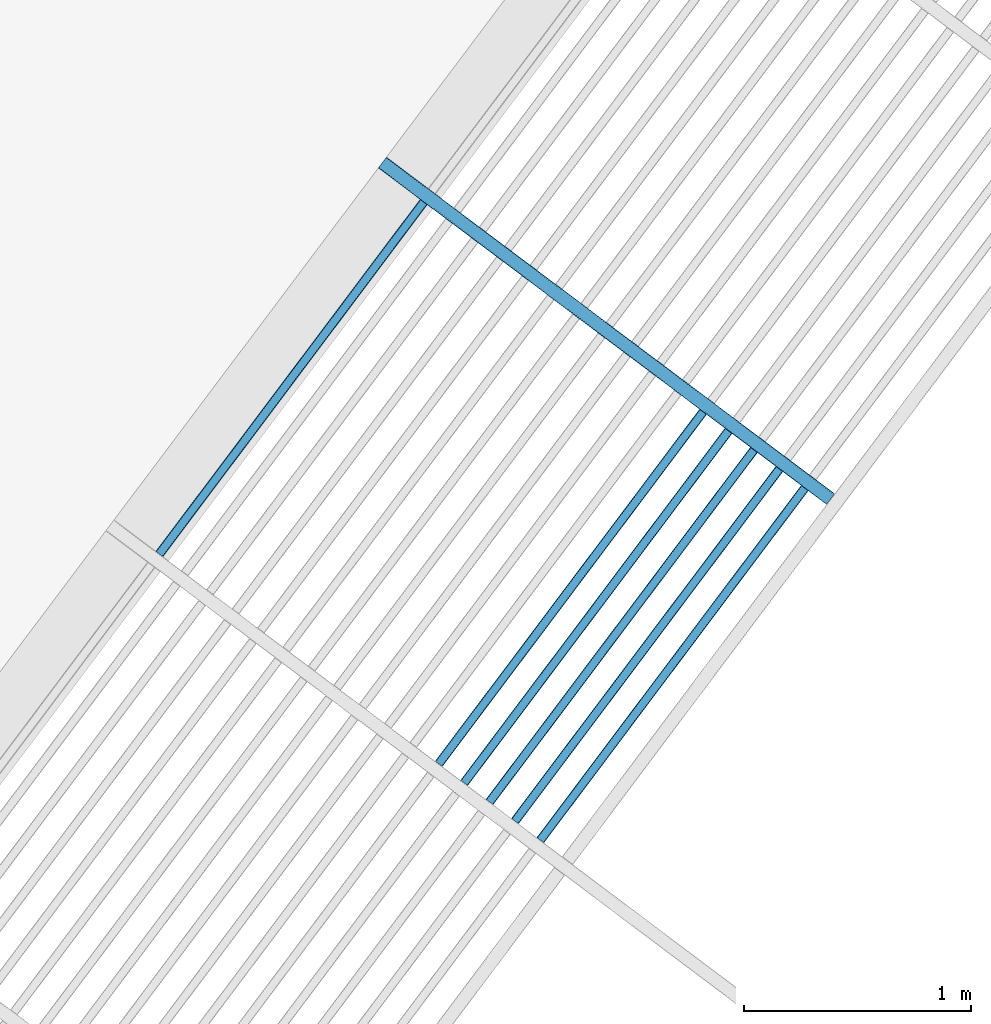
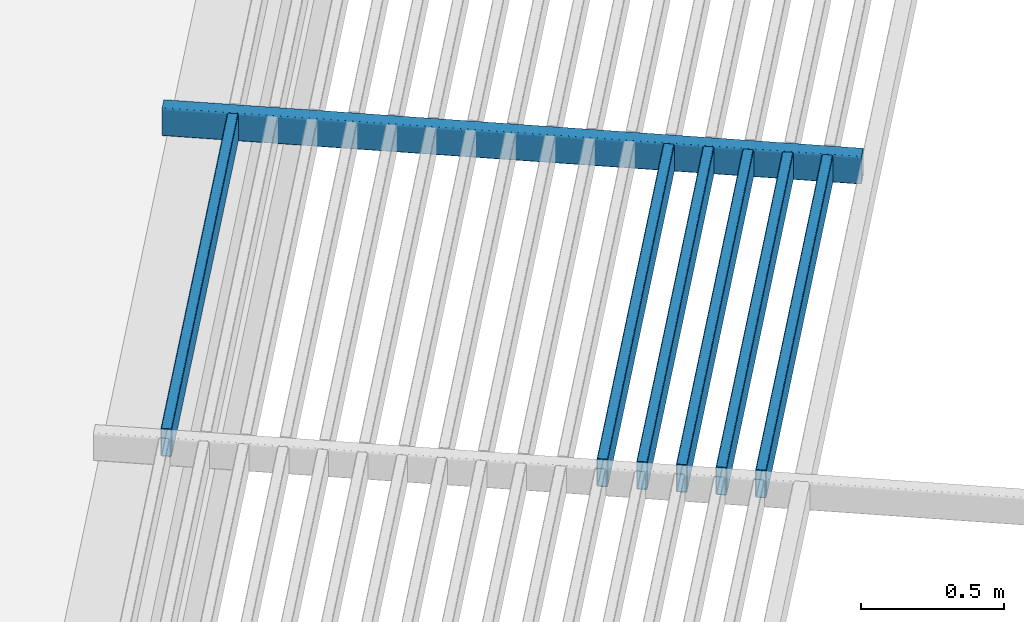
# One storey, part 29 of 95: 7 beams.
"""IFC2X3 building model written with IfcOpenShell, lengths in metres."""

from ifc_helpers import new_model, entity, si_unit, converted_unit, derived_unit, direction, frame, frame_2d, origin, place, context, subcontext, project, spatial, polyline, circle_curve, parameter, trimmed, segment, composite_curve, outline, extrude, material, type_object, element, save


model = new_model("IFC2X3")

# Units and contexts
model_context = context("Model", 3, precision=1e-05, world=origin(), true_north=direction((6.123031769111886e-17, 1.0)))
body_context = subcontext(model_context, "Body", "Model", "MODEL_VIEW")
ifc_project = project(units=[si_unit("LENGTHUNIT", "METRE"), si_unit("AREAUNIT", "SQUARE_METRE"), si_unit("VOLUMEUNIT", "CUBIC_METRE"), converted_unit("PLANEANGLEUNIT", "DEGREE", entity("IfcRatioMeasure", 0.017453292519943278), si_unit("PLANEANGLEUNIT", "RADIAN"), dimensions=[0, 0, 0, 0, 0, 0, 0]), si_unit("MASSUNIT", "GRAM", prefix="KILO"), derived_unit("MASSDENSITYUNIT", [(si_unit("MASSUNIT", "GRAM", prefix="KILO"), 1), (si_unit("LENGTHUNIT", "METRE"), -3)]), derived_unit("IONCONCENTRATIONUNIT", [(si_unit("MASSUNIT", "GRAM", prefix="KILO"), 1), (si_unit("LENGTHUNIT", "METRE"), -3)]), derived_unit("MOMENTOFINERTIAUNIT", [(si_unit("LENGTHUNIT", "METRE"), 4)]), si_unit("TIMEUNIT", "SECOND"), si_unit("FREQUENCYUNIT", "HERTZ"), si_unit("THERMODYNAMICTEMPERATUREUNIT", "DEGREE_CELSIUS"), derived_unit("THERMALTRANSMITTANCEUNIT", [(si_unit("MASSUNIT", "GRAM", prefix="KILO"), 1), (si_unit("THERMODYNAMICTEMPERATUREUNIT", "KELVIN"), -1), (si_unit("TIMEUNIT", "SECOND"), -3)]), derived_unit("THERMALCONDUCTANCEUNIT", [(si_unit("MASSUNIT", "GRAM", prefix="KILO"), 1), (si_unit("THERMODYNAMICTEMPERATUREUNIT", "KELVIN"), -1), (si_unit("TIMEUNIT", "SECOND"), -3), (si_unit("LENGTHUNIT", "METRE"), 1)]), derived_unit("VOLUMETRICFLOWRATEUNIT", [(si_unit("LENGTHUNIT", "METRE"), 3), (si_unit("TIMEUNIT", "SECOND"), -1)]), derived_unit("MASSFLOWRATEUNIT", [(si_unit("MASSUNIT", "GRAM", prefix="KILO"), 1), (si_unit("TIMEUNIT", "SECOND"), -1)]), derived_unit("ROTATIONALFREQUENCYUNIT", [(si_unit("TIMEUNIT", "SECOND"), -1)]), si_unit("ELECTRICCURRENTUNIT", "AMPERE"), si_unit("ELECTRICVOLTAGEUNIT", "VOLT"), si_unit("POWERUNIT", "WATT"), si_unit("FORCEUNIT", "NEWTON", prefix="KILO"), si_unit("ILLUMINANCEUNIT", "LUX"), si_unit("LUMINOUSFLUXUNIT", "LUMEN"), si_unit("LUMINOUSINTENSITYUNIT", "CANDELA"), derived_unit("USERDEFINED", [(si_unit("MASSUNIT", "GRAM", prefix="KILO"), -1), (si_unit("LENGTHUNIT", "METRE"), -2), (si_unit("TIMEUNIT", "SECOND"), 3), (si_unit("LUMINOUSFLUXUNIT", "LUMEN"), 1)]), derived_unit("USERDEFINED", [(si_unit("MASSUNIT", "GRAM", prefix="KILO"), 1), (si_unit("TIMEUNIT", "SECOND"), -3), (si_unit("LENGTHUNIT", "METRE"), 3), (si_unit("ELECTRICCURRENTUNIT", "AMPERE"), -2)]), derived_unit("SOUNDPOWERUNIT", [(si_unit("MASSUNIT", "GRAM", prefix="KILO"), 1), (si_unit("TIMEUNIT", "SECOND"), -3), (si_unit("LENGTHUNIT", "METRE"), 2)]), derived_unit("SOUNDPRESSUREUNIT", [(si_unit("MASSUNIT", "GRAM", prefix="KILO"), 1), (si_unit("LENGTHUNIT", "METRE"), -1), (si_unit("TIMEUNIT", "SECOND"), -2)]), derived_unit("LINEARVELOCITYUNIT", [(si_unit("LENGTHUNIT", "METRE"), 1), (si_unit("TIMEUNIT", "SECOND"), -1)]), si_unit("PRESSUREUNIT", "PASCAL"), derived_unit("USERDEFINED", [(si_unit("MASSUNIT", "GRAM", prefix="KILO"), 1), (si_unit("LENGTHUNIT", "METRE"), -2), (si_unit("TIMEUNIT", "SECOND"), -2)]), derived_unit("LINEARFORCEUNIT", [(si_unit("MASSUNIT", "GRAM", prefix="KILO"), 1), (si_unit("TIMEUNIT", "SECOND"), -2)]), derived_unit("PLANARFORCEUNIT", [(si_unit("MASSUNIT", "GRAM", prefix="KILO"), 1), (si_unit("LENGTHUNIT", "METRE"), -1), (si_unit("TIMEUNIT", "SECOND"), -2)]), derived_unit("SPECIFICHEATCAPACITYUNIT", [(si_unit("THERMODYNAMICTEMPERATUREUNIT", "KELVIN"), -1), (si_unit("LENGTHUNIT", "METRE"), 2), (si_unit("TIMEUNIT", "SECOND"), -2)]), derived_unit("HEATINGVALUEUNIT", [(si_unit("LENGTHUNIT", "METRE"), 2), (si_unit("TIMEUNIT", "SECOND"), -2)]), derived_unit("VAPORPERMEABILITYUNIT", [(si_unit("LENGTHUNIT", "METRE"), -1), (si_unit("TIMEUNIT", "SECOND"), 1)]), derived_unit("DYNAMICVISCOSITYUNIT", [(si_unit("MASSUNIT", "GRAM", prefix="KILO"), 1), (si_unit("TIMEUNIT", "SECOND"), -1), (si_unit("LENGTHUNIT", "METRE"), -1)]), derived_unit("THERMALEXPANSIONCOEFFICIENTUNIT", [(si_unit("THERMODYNAMICTEMPERATUREUNIT", "KELVIN"), -1)]), derived_unit("MODULUSOFELASTICITYUNIT", [(si_unit("MASSUNIT", "GRAM", prefix="KILO"), 1), (si_unit("LENGTHUNIT", "METRE"), -1), (si_unit("TIMEUNIT", "SECOND"), -2)]), derived_unit("ISOTHERMALMOISTURECAPACITYUNIT", [(si_unit("LENGTHUNIT", "METRE"), 3), (si_unit("MASSUNIT", "GRAM", prefix="KILO"), -1)]), derived_unit("MOISTUREDIFFUSIVITYUNIT", [(si_unit("TIMEUNIT", "SECOND"), -1), (si_unit("LENGTHUNIT", "METRE"), 2)])], contexts=[model_context])

# Site, building, storey
site_placement = place(None, origin())
site = spatial("IfcSite", under=ifc_project, at=site_placement, Name="Default", CompositionType="ELEMENT")
building_placement = place(site_placement, frame((0.0, 0.0, 235.0), z_axis=(0.0, 0.0, 1.0), x_axis=(-0.7996477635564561, 0.6004693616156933, 0.0)))
building = spatial("IfcBuilding", under=site, at=building_placement, CompositionType="ELEMENT")
storey_placement = place(building_placement, frame((0.0, 0.0, 3.400000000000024)))
storey = spatial("IfcBuildingStorey", under=building, at=storey_placement, Name="PC- Coberta STR", CompositionType="ELEMENT", Elevation=3.400000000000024)

# Beams
ifc_material = material(Name="_Acer- STR")
beam_type_1 = type_object("IfcBeamType", Name="STR- V- Acer- RHS- Rectangular- T1:120x60RHS", PredefinedType="NOTDEFINED")
beam_1_placement = place(storey_placement, frame((26.175147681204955, -30.44678703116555, 0.4984047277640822), z_axis=(0.0, 0.0, 1.0), x_axis=(-1.0, 0.0, 0.0)))
element("IfcBeam", 1, at=beam_1_placement, inside=storey, type_object=beam_type_1, material=ifc_material, Name="STR- V- Acer- RHS- Rectangular- T1:120x60RHS", ObjectType="STR- V- Acer- RHS- Rectangular- T1:120x60RHS", context=body_context, shape_type="SweptSolid", body=[
    extrude(outline(composite_curve([segment(trimmed(circle_curve(frame_2d((-0.021999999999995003, -0.05200000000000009), x_axis=(1.0, 0.0)), 0.008), [parameter(180.0000000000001)], [parameter(269.99999999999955)], True, "PARAMETER"), True, "CONTINUOUS"), segment(polyline([(-0.021999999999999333, -0.0599999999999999), (0.021999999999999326, -0.0599999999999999)]), True, "CONTINUOUS"), segment(trimmed(circle_curve(frame_2d((0.022000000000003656, -0.05200000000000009), x_axis=(1.0, 0.0)), 0.008), [parameter(269.99999999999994)], [parameter(5.088887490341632e-14)], True, "PARAMETER"), True, "CONTINUOUS"), segment(polyline([(0.030000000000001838, -0.05200000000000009), (0.030000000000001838, 0.05200000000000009)]), True, "CONTINUOUS"), segment(trimmed(circle_curve(frame_2d((0.022000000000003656, 0.05200000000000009), x_axis=(1.0, 0.0)), 0.008), [parameter(359.99999999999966)], [parameter(89.99999999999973)], True, "PARAMETER"), True, "CONTINUOUS"), segment(polyline([(0.021999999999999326, 0.059999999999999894), (-0.021999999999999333, 0.059999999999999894)]), True, "CONTINUOUS"), segment(trimmed(circle_curve(frame_2d((-0.021999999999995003, 0.05200000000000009), x_axis=(1.0, 0.0)), 0.008), [parameter(90.00000000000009)], [parameter(180.00000000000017)], True, "PARAMETER"), True, "CONTINUOUS"), segment(polyline([(-0.029999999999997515, 0.05200000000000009), (-0.029999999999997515, -0.05200000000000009)]), True, "CONTINUOUS")], self_intersect=False), holes=[composite_curve([segment(polyline([(0.021999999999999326, -0.05600000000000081), (-0.021999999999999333, -0.05600000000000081)]), True, "CONTINUOUS"), segment(trimmed(circle_curve(frame_2d((-0.021999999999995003, -0.05200000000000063), x_axis=(1.0, 0.0)), 0.004), [parameter(179.99999999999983)], [parameter(269.9999999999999)], True, "PARAMETER"), False, "CONTINUOUS"), segment(polyline([(-0.025999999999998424, -0.05200000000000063), (-0.025999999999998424, 0.051999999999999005)]), True, "CONTINUOUS"), segment(trimmed(circle_curve(frame_2d((-0.021999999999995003, 0.051999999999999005), x_axis=(1.0, 0.0)), 0.004), [parameter(90.00000000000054)], [parameter(180.00000000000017)], True, "PARAMETER"), False, "CONTINUOUS"), segment(polyline([(-0.021999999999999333, 0.055999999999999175), (0.021999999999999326, 0.055999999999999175)]), True, "CONTINUOUS"), segment(trimmed(circle_curve(frame_2d((0.022000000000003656, 0.051999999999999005), x_axis=(1.0, 0.0)), 0.004), [parameter(0.0)], [parameter(90.00000000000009)], True, "PARAMETER"), False, "CONTINUOUS"), segment(polyline([(0.02599999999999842, 0.051999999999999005), (0.02599999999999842, -0.05200000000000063)]), True, "CONTINUOUS"), segment(trimmed(circle_curve(frame_2d((0.022000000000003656, -0.05200000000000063), x_axis=(1.0, 0.0)), 0.004), [parameter(270.00000000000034)], [parameter(3.5622212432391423e-13)], True, "PARAMETER"), False, "CONTINUOUS")], self_intersect=False)]), frame((-2.470000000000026, -0.03159527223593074, 0.06159527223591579), z_axis=(1.0, 0.0, 0.0), x_axis=(0.0, -1.0, 0.0)), (0.0, 0.0, 1.0), 2.4700000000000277),
])
beam_type_2 = type_object("IfcBeamType", Name="STR- V- Acer- RHS- Rectangular- T1:120x40RHS -", PredefinedType="NOTDEFINED")
beam_2_placement = place(storey_placement, frame((28.373552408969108, -30.385191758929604, 0.49840472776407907), z_axis=(0.0, 0.0, 1.0), x_axis=(0.0, -1.0, 0.0)))
element("IfcBeam", 2, at=beam_2_placement, inside=storey, type_object=beam_type_2, material=ifc_material, Name="STR- V- Acer- RHS- Rectangular- T1:120x40RHS -", ObjectType="STR- V- Acer- RHS- Rectangular- T1:120x40RHS -", context=body_context, shape_type="SweptSolid", body=[
    extrude(outline(composite_curve([segment(trimmed(circle_curve(frame_2d((-0.013999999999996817, -0.05400000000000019), x_axis=(1.0, 0.0)), 0.006), [parameter(180.0000000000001)], [parameter(269.99999999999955)], True, "PARAMETER"), True, "CONTINUOUS"), segment(polyline([(-0.014000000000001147, -0.06000000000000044), (0.01400000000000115, -0.06000000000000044)]), True, "CONTINUOUS"), segment(trimmed(circle_curve(frame_2d((0.01400000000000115, -0.05400000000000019), x_axis=(1.0, 0.0)), 0.006), [parameter(269.99999999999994)], [parameter(1.0177774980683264e-13)], True, "PARAMETER"), True, "CONTINUOUS"), segment(polyline([(0.019999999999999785, -0.05400000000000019), (0.019999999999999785, 0.05399999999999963)]), True, "CONTINUOUS"), segment(trimmed(circle_curve(frame_2d((0.01400000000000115, 0.05399999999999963), x_axis=(1.0, 0.0)), 0.006), [parameter(359.9999999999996)], [parameter(89.99999999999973)], True, "PARAMETER"), True, "CONTINUOUS"), segment(polyline([(0.01400000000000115, 0.05999999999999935), (-0.014000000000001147, 0.05999999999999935)]), True, "CONTINUOUS"), segment(trimmed(circle_curve(frame_2d((-0.013999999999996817, 0.05399999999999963), x_axis=(1.0, 0.0)), 0.006), [parameter(90.00000000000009)], [parameter(180.00000000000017)], True, "PARAMETER"), True, "CONTINUOUS"), segment(polyline([(-0.019999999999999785, 0.05399999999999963), (-0.019999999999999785, -0.05400000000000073)]), True, "CONTINUOUS")], self_intersect=False), holes=[composite_curve([segment(polyline([(0.01400000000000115, -0.05700000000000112), (-0.014000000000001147, -0.05700000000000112)]), True, "CONTINUOUS"), segment(trimmed(circle_curve(frame_2d((-0.013999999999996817, -0.05400000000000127), x_axis=(1.0, 0.0)), 0.003), [parameter(179.99999999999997)], [parameter(269.9999999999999)], True, "PARAMETER"), False, "CONTINUOUS"), segment(polyline([(-0.01700000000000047, -0.05400000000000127), (-0.01700000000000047, 0.05399999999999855)]), True, "CONTINUOUS"), segment(trimmed(circle_curve(frame_2d((-0.013999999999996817, 0.05399999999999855), x_axis=(1.0, 0.0)), 0.003), [parameter(90.00000000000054)], [parameter(180.0000000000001)], True, "PARAMETER"), False, "CONTINUOUS"), segment(polyline([(-0.014000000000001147, 0.05699999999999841), (0.01400000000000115, 0.05699999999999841)]), True, "CONTINUOUS"), segment(trimmed(circle_curve(frame_2d((0.01400000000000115, 0.05399999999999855), x_axis=(1.0, 0.0)), 0.003), [parameter(0.0)], [parameter(90.00000000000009)], True, "PARAMETER"), False, "CONTINUOUS"), segment(polyline([(0.017000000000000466, 0.05399999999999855), (0.017000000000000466, -0.05400000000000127)]), True, "CONTINUOUS"), segment(trimmed(circle_curve(frame_2d((0.01400000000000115, -0.05400000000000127), x_axis=(1.0, 0.0)), 0.003), [parameter(270.00000000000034)], [parameter(3.053332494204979e-13)], True, "PARAMETER"), False, "CONTINUOUS")], self_intersect=False)]), frame((-1.9399999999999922, 0.021595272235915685, 0.06159527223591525), z_axis=(1.0, 0.0, 0.0), x_axis=(0.0, -1.0, 0.0)), (0.0, 0.0, 1.0), 1.9399999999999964),
])
beam_3_placement = place(storey_placement, frame((26.833552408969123, -30.385191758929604, 0.49840472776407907), z_axis=(0.0, 0.0, 1.0), x_axis=(0.0, -1.0, 0.0)))
element("IfcBeam", 3, at=beam_3_placement, inside=storey, type_object=beam_type_2, material=ifc_material, Name="STR- V- Acer- RHS- Rectangular- T1:120x40RHS -", ObjectType="STR- V- Acer- RHS- Rectangular- T1:120x40RHS -", context=body_context, shape_type="SweptSolid", body=[
    extrude(outline(composite_curve([segment(trimmed(circle_curve(frame_2d((-0.01400000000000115, -0.05400000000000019), x_axis=(1.0, 0.0)), 0.006), [parameter(180.0000000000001)], [parameter(269.99999999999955)], True, "PARAMETER"), True, "CONTINUOUS"), segment(polyline([(-0.01400000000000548, -0.06000000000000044), (0.013999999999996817, -0.06000000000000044)]), True, "CONTINUOUS"), segment(trimmed(circle_curve(frame_2d((0.013999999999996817, -0.05400000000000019), x_axis=(1.0, 0.0)), 0.006), [parameter(269.99999999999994)], [parameter(1.0177774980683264e-13)], True, "PARAMETER"), True, "CONTINUOUS"), segment(polyline([(0.019999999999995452, -0.05400000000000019), (0.019999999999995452, 0.05399999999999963)]), True, "CONTINUOUS"), segment(trimmed(circle_curve(frame_2d((0.013999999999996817, 0.05399999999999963), x_axis=(1.0, 0.0)), 0.006), [parameter(359.9999999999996)], [parameter(89.99999999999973)], True, "PARAMETER"), True, "CONTINUOUS"), segment(polyline([(0.013999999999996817, 0.05999999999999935), (-0.01400000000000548, 0.05999999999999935)]), True, "CONTINUOUS"), segment(trimmed(circle_curve(frame_2d((-0.01400000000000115, 0.05399999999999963), x_axis=(1.0, 0.0)), 0.006), [parameter(90.00000000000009)], [parameter(180.00000000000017)], True, "PARAMETER"), True, "CONTINUOUS"), segment(polyline([(-0.02000000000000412, 0.05399999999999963), (-0.02000000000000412, -0.05400000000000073)]), True, "CONTINUOUS")], self_intersect=False), holes=[composite_curve([segment(polyline([(0.013999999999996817, -0.05700000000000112), (-0.01400000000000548, -0.05700000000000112)]), True, "CONTINUOUS"), segment(trimmed(circle_curve(frame_2d((-0.01400000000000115, -0.05400000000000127), x_axis=(1.0, 0.0)), 0.003), [parameter(179.99999999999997)], [parameter(269.9999999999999)], True, "PARAMETER"), False, "CONTINUOUS"), segment(polyline([(-0.017000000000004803, -0.05400000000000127), (-0.017000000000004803, 0.05399999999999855)]), True, "CONTINUOUS"), segment(trimmed(circle_curve(frame_2d((-0.01400000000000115, 0.05399999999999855), x_axis=(1.0, 0.0)), 0.003), [parameter(90.00000000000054)], [parameter(180.0000000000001)], True, "PARAMETER"), False, "CONTINUOUS"), segment(polyline([(-0.01400000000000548, 0.05699999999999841), (0.013999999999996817, 0.05699999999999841)]), True, "CONTINUOUS"), segment(trimmed(circle_curve(frame_2d((0.013999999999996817, 0.05399999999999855), x_axis=(1.0, 0.0)), 0.003), [parameter(0.0)], [parameter(90.00000000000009)], True, "PARAMETER"), False, "CONTINUOUS"), segment(polyline([(0.016999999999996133, 0.05399999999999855), (0.016999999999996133, -0.05400000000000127)]), True, "CONTINUOUS"), segment(trimmed(circle_curve(frame_2d((0.013999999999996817, -0.05400000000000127), x_axis=(1.0, 0.0)), 0.003), [parameter(270.00000000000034)], [parameter(3.053332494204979e-13)], True, "PARAMETER"), False, "CONTINUOUS")], self_intersect=False)]), frame((-1.9399999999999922, 0.02159527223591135, 0.06159527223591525), z_axis=(1.0, 0.0, 0.0), x_axis=(0.0, -1.0, 0.0)), (0.0, 0.0, 1.0), 1.9399999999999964),
])
beam_4_placement = place(storey_placement, frame((26.693552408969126, -30.385191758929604, 0.49840472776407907), z_axis=(0.0, 0.0, 1.0), x_axis=(0.0, -1.0, 0.0)))
element("IfcBeam", 4, at=beam_4_placement, inside=storey, type_object=beam_type_2, material=ifc_material, Name="STR- V- Acer- RHS- Rectangular- T1:120x40RHS -", ObjectType="STR- V- Acer- RHS- Rectangular- T1:120x40RHS -", context=body_context, shape_type="SweptSolid", body=[
    extrude(outline(composite_curve([segment(trimmed(circle_curve(frame_2d((-0.013999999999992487, -0.05400000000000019), x_axis=(1.0, 0.0)), 0.006), [parameter(180.0000000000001)], [parameter(269.99999999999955)], True, "PARAMETER"), True, "CONTINUOUS"), segment(polyline([(-0.013999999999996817, -0.06000000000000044), (0.01400000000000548, -0.06000000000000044)]), True, "CONTINUOUS"), segment(trimmed(circle_curve(frame_2d((0.01400000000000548, -0.05400000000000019), x_axis=(1.0, 0.0)), 0.006), [parameter(269.99999999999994)], [parameter(1.0177774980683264e-13)], True, "PARAMETER"), True, "CONTINUOUS"), segment(polyline([(0.020000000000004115, -0.05400000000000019), (0.020000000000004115, 0.05399999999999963)]), True, "CONTINUOUS"), segment(trimmed(circle_curve(frame_2d((0.01400000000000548, 0.05399999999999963), x_axis=(1.0, 0.0)), 0.006), [parameter(359.9999999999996)], [parameter(89.99999999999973)], True, "PARAMETER"), True, "CONTINUOUS"), segment(polyline([(0.01400000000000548, 0.05999999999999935), (-0.013999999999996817, 0.05999999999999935)]), True, "CONTINUOUS"), segment(trimmed(circle_curve(frame_2d((-0.013999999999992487, 0.05399999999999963), x_axis=(1.0, 0.0)), 0.006), [parameter(90.00000000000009)], [parameter(180.00000000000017)], True, "PARAMETER"), True, "CONTINUOUS"), segment(polyline([(-0.019999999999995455, 0.05399999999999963), (-0.019999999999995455, -0.05400000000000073)]), True, "CONTINUOUS")], self_intersect=False), holes=[composite_curve([segment(polyline([(0.01400000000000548, -0.05700000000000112), (-0.013999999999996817, -0.05700000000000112)]), True, "CONTINUOUS"), segment(trimmed(circle_curve(frame_2d((-0.013999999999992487, -0.05400000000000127), x_axis=(1.0, 0.0)), 0.003), [parameter(179.99999999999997)], [parameter(269.9999999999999)], True, "PARAMETER"), False, "CONTINUOUS"), segment(polyline([(-0.01699999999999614, -0.05400000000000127), (-0.01699999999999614, 0.05399999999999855)]), True, "CONTINUOUS"), segment(trimmed(circle_curve(frame_2d((-0.013999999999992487, 0.05399999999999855), x_axis=(1.0, 0.0)), 0.003), [parameter(90.00000000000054)], [parameter(180.0000000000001)], True, "PARAMETER"), False, "CONTINUOUS"), segment(polyline([(-0.013999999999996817, 0.05699999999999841), (0.01400000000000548, 0.05699999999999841)]), True, "CONTINUOUS"), segment(trimmed(circle_curve(frame_2d((0.01400000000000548, 0.05399999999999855), x_axis=(1.0, 0.0)), 0.003), [parameter(0.0)], [parameter(90.00000000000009)], True, "PARAMETER"), False, "CONTINUOUS"), segment(polyline([(0.017000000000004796, 0.05399999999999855), (0.017000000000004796, -0.05400000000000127)]), True, "CONTINUOUS"), segment(trimmed(circle_curve(frame_2d((0.01400000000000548, -0.05400000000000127), x_axis=(1.0, 0.0)), 0.003), [parameter(270.00000000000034)], [parameter(3.053332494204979e-13)], True, "PARAMETER"), False, "CONTINUOUS")], self_intersect=False)]), frame((-1.9399999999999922, 0.021595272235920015, 0.06159527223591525), z_axis=(1.0, 0.0, 0.0), x_axis=(0.0, -1.0, 0.0)), (0.0, 0.0, 1.0), 1.9399999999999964),
])
beam_5_placement = place(storey_placement, frame((26.553552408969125, -30.385191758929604, 0.49840472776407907), z_axis=(0.0, 0.0, 1.0), x_axis=(0.0, -1.0, 0.0)))
element("IfcBeam", 5, at=beam_5_placement, inside=storey, type_object=beam_type_2, material=ifc_material, Name="STR- V- Acer- RHS- Rectangular- T1:120x40RHS -", ObjectType="STR- V- Acer- RHS- Rectangular- T1:120x40RHS -", context=body_context, shape_type="SweptSolid", body=[
    extrude(outline(composite_curve([segment(trimmed(circle_curve(frame_2d((-0.013999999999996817, -0.05400000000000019), x_axis=(1.0, 0.0)), 0.006), [parameter(180.0000000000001)], [parameter(269.99999999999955)], True, "PARAMETER"), True, "CONTINUOUS"), segment(polyline([(-0.014000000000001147, -0.06000000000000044), (0.01400000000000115, -0.06000000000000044)]), True, "CONTINUOUS"), segment(trimmed(circle_curve(frame_2d((0.01400000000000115, -0.05400000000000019), x_axis=(1.0, 0.0)), 0.006), [parameter(269.99999999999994)], [parameter(1.0177774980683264e-13)], True, "PARAMETER"), True, "CONTINUOUS"), segment(polyline([(0.019999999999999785, -0.05400000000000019), (0.019999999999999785, 0.05399999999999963)]), True, "CONTINUOUS"), segment(trimmed(circle_curve(frame_2d((0.01400000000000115, 0.05399999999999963), x_axis=(1.0, 0.0)), 0.006), [parameter(359.9999999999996)], [parameter(89.99999999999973)], True, "PARAMETER"), True, "CONTINUOUS"), segment(polyline([(0.01400000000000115, 0.05999999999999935), (-0.014000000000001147, 0.05999999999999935)]), True, "CONTINUOUS"), segment(trimmed(circle_curve(frame_2d((-0.013999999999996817, 0.05399999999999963), x_axis=(1.0, 0.0)), 0.006), [parameter(90.00000000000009)], [parameter(180.00000000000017)], True, "PARAMETER"), True, "CONTINUOUS"), segment(polyline([(-0.019999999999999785, 0.05399999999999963), (-0.019999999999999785, -0.05400000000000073)]), True, "CONTINUOUS")], self_intersect=False), holes=[composite_curve([segment(polyline([(0.01400000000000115, -0.05700000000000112), (-0.014000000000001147, -0.05700000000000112)]), True, "CONTINUOUS"), segment(trimmed(circle_curve(frame_2d((-0.013999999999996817, -0.05400000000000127), x_axis=(1.0, 0.0)), 0.003), [parameter(179.99999999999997)], [parameter(269.9999999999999)], True, "PARAMETER"), False, "CONTINUOUS"), segment(polyline([(-0.01700000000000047, -0.05400000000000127), (-0.01700000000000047, 0.05399999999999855)]), True, "CONTINUOUS"), segment(trimmed(circle_curve(frame_2d((-0.013999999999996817, 0.05399999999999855), x_axis=(1.0, 0.0)), 0.003), [parameter(90.00000000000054)], [parameter(180.0000000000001)], True, "PARAMETER"), False, "CONTINUOUS"), segment(polyline([(-0.014000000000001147, 0.05699999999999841), (0.01400000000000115, 0.05699999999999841)]), True, "CONTINUOUS"), segment(trimmed(circle_curve(frame_2d((0.01400000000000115, 0.05399999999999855), x_axis=(1.0, 0.0)), 0.003), [parameter(0.0)], [parameter(90.00000000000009)], True, "PARAMETER"), False, "CONTINUOUS"), segment(polyline([(0.017000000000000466, 0.05399999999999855), (0.017000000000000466, -0.05400000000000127)]), True, "CONTINUOUS"), segment(trimmed(circle_curve(frame_2d((0.01400000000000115, -0.05400000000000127), x_axis=(1.0, 0.0)), 0.003), [parameter(270.00000000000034)], [parameter(3.053332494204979e-13)], True, "PARAMETER"), False, "CONTINUOUS")], self_intersect=False)]), frame((-1.9399999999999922, 0.021595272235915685, 0.06159527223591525), z_axis=(1.0, 0.0, 0.0), x_axis=(0.0, -1.0, 0.0)), (0.0, 0.0, 1.0), 1.9399999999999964),
])
beam_6_placement = place(storey_placement, frame((26.413552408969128, -30.385191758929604, 0.49840472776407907), z_axis=(0.0, 0.0, 1.0), x_axis=(0.0, -1.0, 0.0)))
element("IfcBeam", 6, at=beam_6_placement, inside=storey, type_object=beam_type_2, material=ifc_material, Name="STR- V- Acer- RHS- Rectangular- T1:120x40RHS -", ObjectType="STR- V- Acer- RHS- Rectangular- T1:120x40RHS -", context=body_context, shape_type="SweptSolid", body=[
    extrude(outline(composite_curve([segment(trimmed(circle_curve(frame_2d((-0.013999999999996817, -0.05400000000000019), x_axis=(1.0, 0.0)), 0.006), [parameter(180.0000000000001)], [parameter(269.99999999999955)], True, "PARAMETER"), True, "CONTINUOUS"), segment(polyline([(-0.014000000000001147, -0.06000000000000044), (0.01400000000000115, -0.06000000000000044)]), True, "CONTINUOUS"), segment(trimmed(circle_curve(frame_2d((0.01400000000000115, -0.05400000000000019), x_axis=(1.0, 0.0)), 0.006), [parameter(269.99999999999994)], [parameter(1.0177774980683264e-13)], True, "PARAMETER"), True, "CONTINUOUS"), segment(polyline([(0.019999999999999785, -0.05400000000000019), (0.019999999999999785, 0.05399999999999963)]), True, "CONTINUOUS"), segment(trimmed(circle_curve(frame_2d((0.01400000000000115, 0.05399999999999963), x_axis=(1.0, 0.0)), 0.006), [parameter(359.9999999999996)], [parameter(89.99999999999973)], True, "PARAMETER"), True, "CONTINUOUS"), segment(polyline([(0.01400000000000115, 0.05999999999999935), (-0.014000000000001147, 0.05999999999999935)]), True, "CONTINUOUS"), segment(trimmed(circle_curve(frame_2d((-0.013999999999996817, 0.05399999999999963), x_axis=(1.0, 0.0)), 0.006), [parameter(90.00000000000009)], [parameter(180.00000000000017)], True, "PARAMETER"), True, "CONTINUOUS"), segment(polyline([(-0.019999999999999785, 0.05399999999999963), (-0.019999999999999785, -0.05400000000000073)]), True, "CONTINUOUS")], self_intersect=False), holes=[composite_curve([segment(polyline([(0.01400000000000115, -0.05700000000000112), (-0.014000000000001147, -0.05700000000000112)]), True, "CONTINUOUS"), segment(trimmed(circle_curve(frame_2d((-0.013999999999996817, -0.05400000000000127), x_axis=(1.0, 0.0)), 0.003), [parameter(179.99999999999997)], [parameter(269.9999999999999)], True, "PARAMETER"), False, "CONTINUOUS"), segment(polyline([(-0.01700000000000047, -0.05400000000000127), (-0.01700000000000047, 0.05399999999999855)]), True, "CONTINUOUS"), segment(trimmed(circle_curve(frame_2d((-0.013999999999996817, 0.05399999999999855), x_axis=(1.0, 0.0)), 0.003), [parameter(90.00000000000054)], [parameter(180.0000000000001)], True, "PARAMETER"), False, "CONTINUOUS"), segment(polyline([(-0.014000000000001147, 0.05699999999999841), (0.01400000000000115, 0.05699999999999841)]), True, "CONTINUOUS"), segment(trimmed(circle_curve(frame_2d((0.01400000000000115, 0.05399999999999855), x_axis=(1.0, 0.0)), 0.003), [parameter(0.0)], [parameter(90.00000000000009)], True, "PARAMETER"), False, "CONTINUOUS"), segment(polyline([(0.017000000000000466, 0.05399999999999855), (0.017000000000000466, -0.05400000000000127)]), True, "CONTINUOUS"), segment(trimmed(circle_curve(frame_2d((0.01400000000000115, -0.05400000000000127), x_axis=(1.0, 0.0)), 0.003), [parameter(270.00000000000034)], [parameter(3.053332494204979e-13)], True, "PARAMETER"), False, "CONTINUOUS")], self_intersect=False)]), frame((-1.9399999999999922, 0.021595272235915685, 0.06159527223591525), z_axis=(1.0, 0.0, 0.0), x_axis=(0.0, -1.0, 0.0)), (0.0, 0.0, 1.0), 1.9399999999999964),
])
beam_7_placement = place(storey_placement, frame((26.27355240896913, -30.385191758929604, 0.49840472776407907), z_axis=(0.0, 0.0, 1.0), x_axis=(0.0, -1.0, 0.0)))
element("IfcBeam", 7, at=beam_7_placement, inside=storey, type_object=beam_type_2, material=ifc_material, Name="STR- V- Acer- RHS- Rectangular- T1:120x40RHS -", ObjectType="STR- V- Acer- RHS- Rectangular- T1:120x40RHS -", context=body_context, shape_type="SweptSolid", body=[
    extrude(outline(composite_curve([segment(trimmed(circle_curve(frame_2d((-0.013999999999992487, -0.05400000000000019), x_axis=(1.0, 0.0)), 0.006), [parameter(180.0000000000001)], [parameter(269.99999999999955)], True, "PARAMETER"), True, "CONTINUOUS"), segment(polyline([(-0.013999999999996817, -0.06000000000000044), (0.01400000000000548, -0.06000000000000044)]), True, "CONTINUOUS"), segment(trimmed(circle_curve(frame_2d((0.01400000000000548, -0.05400000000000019), x_axis=(1.0, 0.0)), 0.006), [parameter(269.99999999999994)], [parameter(1.0177774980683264e-13)], True, "PARAMETER"), True, "CONTINUOUS"), segment(polyline([(0.020000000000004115, -0.05400000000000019), (0.020000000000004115, 0.05399999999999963)]), True, "CONTINUOUS"), segment(trimmed(circle_curve(frame_2d((0.01400000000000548, 0.05399999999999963), x_axis=(1.0, 0.0)), 0.006), [parameter(359.9999999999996)], [parameter(89.99999999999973)], True, "PARAMETER"), True, "CONTINUOUS"), segment(polyline([(0.01400000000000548, 0.05999999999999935), (-0.013999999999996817, 0.05999999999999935)]), True, "CONTINUOUS"), segment(trimmed(circle_curve(frame_2d((-0.013999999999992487, 0.05399999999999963), x_axis=(1.0, 0.0)), 0.006), [parameter(90.00000000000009)], [parameter(180.00000000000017)], True, "PARAMETER"), True, "CONTINUOUS"), segment(polyline([(-0.019999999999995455, 0.05399999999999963), (-0.019999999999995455, -0.05400000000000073)]), True, "CONTINUOUS")], self_intersect=False), holes=[composite_curve([segment(polyline([(0.01400000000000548, -0.05700000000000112), (-0.013999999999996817, -0.05700000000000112)]), True, "CONTINUOUS"), segment(trimmed(circle_curve(frame_2d((-0.013999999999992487, -0.05400000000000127), x_axis=(1.0, 0.0)), 0.003), [parameter(179.99999999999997)], [parameter(269.9999999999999)], True, "PARAMETER"), False, "CONTINUOUS"), segment(polyline([(-0.01699999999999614, -0.05400000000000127), (-0.01699999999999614, 0.05399999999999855)]), True, "CONTINUOUS"), segment(trimmed(circle_curve(frame_2d((-0.013999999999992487, 0.05399999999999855), x_axis=(1.0, 0.0)), 0.003), [parameter(90.00000000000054)], [parameter(180.0000000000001)], True, "PARAMETER"), False, "CONTINUOUS"), segment(polyline([(-0.013999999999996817, 0.05699999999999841), (0.01400000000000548, 0.05699999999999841)]), True, "CONTINUOUS"), segment(trimmed(circle_curve(frame_2d((0.01400000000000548, 0.05399999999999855), x_axis=(1.0, 0.0)), 0.003), [parameter(0.0)], [parameter(90.00000000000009)], True, "PARAMETER"), False, "CONTINUOUS"), segment(polyline([(0.017000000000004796, 0.05399999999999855), (0.017000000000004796, -0.05400000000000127)]), True, "CONTINUOUS"), segment(trimmed(circle_curve(frame_2d((0.01400000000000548, -0.05400000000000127), x_axis=(1.0, 0.0)), 0.003), [parameter(270.00000000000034)], [parameter(3.053332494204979e-13)], True, "PARAMETER"), False, "CONTINUOUS")], self_intersect=False)]), frame((-1.9399999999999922, 0.021595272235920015, 0.06159527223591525), z_axis=(1.0, 0.0, 0.0), x_axis=(0.0, -1.0, 0.0)), (0.0, 0.0, 1.0), 1.9399999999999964),
])

save(model, "model.ifc")
